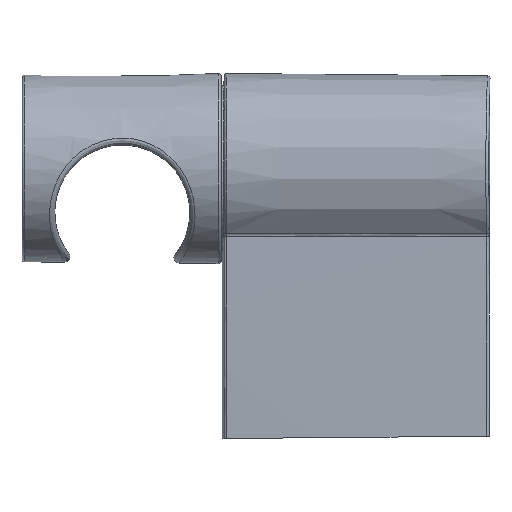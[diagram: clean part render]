
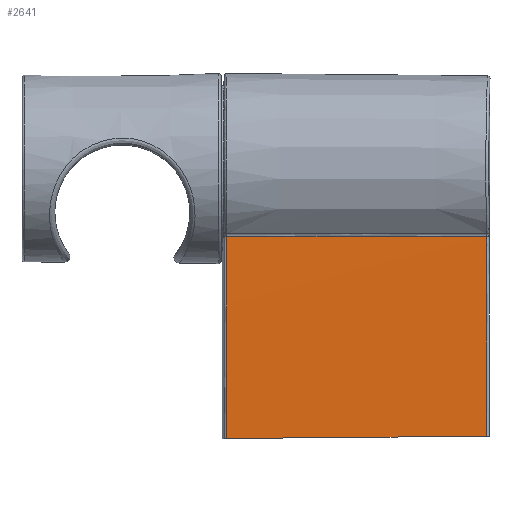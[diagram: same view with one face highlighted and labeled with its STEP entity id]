
A CAD part, front view. The second image highlights one B-rep face of the part: STEP entity #2641.
In plain terms, the highlighted spherical face has radius 2048.5 mm.
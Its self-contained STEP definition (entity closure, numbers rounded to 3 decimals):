
#3 = AXIS2_PLACEMENT_3D ( 'NONE', #2505, #2504, #2496 ) ;
#41 = B_SPLINE_CURVE_WITH_KNOTS ( 'NONE', 3,
 ( #827, #810, #809, #804 ),
 .UNSPECIFIED., .F., .F.,
 ( 4, 4 ),
 ( 0.67, 0.707 ),
 .UNSPECIFIED. ) ;
#154 = CARTESIAN_POINT ( 'NONE',  ( 24.681, -12.22, 38.113 ) ) ;
#215 = AXIS2_PLACEMENT_3D ( 'NONE', #2323, #2322, #2314 ) ;
#234 = DIRECTION ( 'NONE',  ( 0., 0., 1. ) ) ;
#732 = B_SPLINE_CURVE_WITH_KNOTS ( 'NONE', 3,
 ( #2375, #2407, #2370, #2369, #2364, #2349 ),
 .UNSPECIFIED., .F., .F.,
 ( 4, 2, 4 ),
 ( 0.008, 0.032, 0.057 ),
 .UNSPECIFIED. ) ;
#804 = CARTESIAN_POINT ( 'NONE',  ( 24.681, -12.22, 38.113 ) ) ;
#809 = CARTESIAN_POINT ( 'NONE',  ( 24.681, -12.214, 25.552 ) ) ;
#810 = CARTESIAN_POINT ( 'NONE',  ( 24.684, -12.092, 12.992 ) ) ;
#827 = CARTESIAN_POINT ( 'NONE',  ( 24.689, -11.855, 0.434 ) ) ;
#845 = EDGE_CURVE ( 'NONE', #2690, #2888, #3462, .T. ) ;
#866 = EDGE_CURVE ( 'NONE', #2049, #2340, #2087, .T. ) ;
#1135 = EDGE_CURVE ( 'NONE', #2888, #2133, #732, .T. ) ;
#1215 = EDGE_CURVE ( 'NONE', #2133, #2049, #2096, .T. ) ;
#1254 = CARTESIAN_POINT ( 'NONE',  ( 24.689, -11.855, 0.434 ) ) ;
#1345 = CARTESIAN_POINT ( 'NONE',  ( -24.428, -12.823, 38.116 ) ) ;
#1370 = CARTESIAN_POINT ( 'NONE',  ( -24.428, -12.45, 0.005 ) ) ;
#1778 = SPHERICAL_SURFACE ( 'NONE', #3240, 2048.5 ) ;
#1786 = FACE_OUTER_BOUND ( 'NONE', #2255, .T. ) ;
#2049 = VERTEX_POINT ( 'NONE', #1370 ) ;
#2087 = CIRCLE ( 'NONE', #3, 2048.127 ) ;
#2096 = CIRCLE ( 'NONE', #215, 2048.5 ) ;
#2133 = VERTEX_POINT ( 'NONE', #1345 ) ;
#2255 = EDGE_LOOP ( 'NONE', ( #3753, #2517, #3171, #2280, #3817 ) ) ;
#2280 = ORIENTED_EDGE ( 'NONE', *, *, #845, .T. ) ;
#2314 = DIRECTION ( 'NONE',  ( 0., 0., 1. ) ) ;
#2322 = DIRECTION ( 'NONE',  ( 1., 0., 0. ) ) ;
#2323 = CARTESIAN_POINT ( 'NONE',  ( -24.428, 2035.677, 39.091 ) ) ;
#2340 = VERTEX_POINT ( 'NONE', #1254 ) ;
#2349 = CARTESIAN_POINT ( 'NONE',  ( -24.428, -12.823, 38.116 ) ) ;
#2364 = CARTESIAN_POINT ( 'NONE',  ( -16.247, -12.82, 38.218 ) ) ;
#2369 = CARTESIAN_POINT ( 'NONE',  ( -8.066, -12.769, 38.268 ) ) ;
#2370 = CARTESIAN_POINT ( 'NONE',  ( 8.294, -12.568, 38.265 ) ) ;
#2375 = CARTESIAN_POINT ( 'NONE',  ( 24.652, -12.221, 38.113 ) ) ;
#2407 = CARTESIAN_POINT ( 'NONE',  ( 16.474, -12.419, 38.211 ) ) ;
#2409 = DIRECTION ( 'NONE',  ( -1., 0., 0. ) ) ;
#2496 = DIRECTION ( 'NONE',  ( -1., 0., -0.009 ) ) ;
#2504 = DIRECTION ( 'NONE',  ( -0.009, 0., 1. ) ) ;
#2505 = CARTESIAN_POINT ( 'NONE',  ( -24.659, 2035.677, 0.003 ) ) ;
#2517 = ORIENTED_EDGE ( 'NONE', *, *, #866, .T. ) ;
#2521 = CARTESIAN_POINT ( 'NONE',  ( 24.652, -12.221, 38.113 ) ) ;
#2563 = CARTESIAN_POINT ( 'NONE',  ( 24.662, -12.221, 38.113 ) ) ;
#2570 = EDGE_CURVE ( 'NONE', #2340, #2690, #41, .T. ) ;
#2641 = ADVANCED_FACE ( 'NONE', ( #1786 ), #1778, .T. ) ;
#2672 = CARTESIAN_POINT ( 'NONE',  ( 24.652, -12.221, 38.113 ) ) ;
#2690 = VERTEX_POINT ( 'NONE', #154 ) ;
#2888 = VERTEX_POINT ( 'NONE', #2672 ) ;
#3171 = ORIENTED_EDGE ( 'NONE', *, *, #2570, .T. ) ;
#3240 = AXIS2_PLACEMENT_3D ( 'NONE', #3783, #234, #2409 ) ;
#3391 = CARTESIAN_POINT ( 'NONE',  ( 24.681, -12.22, 38.113 ) ) ;
#3403 = CARTESIAN_POINT ( 'NONE',  ( 24.671, -12.22, 38.113 ) ) ;
#3462 = B_SPLINE_CURVE_WITH_KNOTS ( 'NONE', 3,
 ( #3391, #3403, #2563, #2521 ),
 .UNSPECIFIED., .F., .F.,
 ( 4, 4 ),
 ( 0.005, 0.005 ),
 .UNSPECIFIED. ) ;
#3753 = ORIENTED_EDGE ( 'NONE', *, *, #1215, .T. ) ;
#3783 = CARTESIAN_POINT ( 'NONE',  ( -25., 2035.677, 39.091 ) ) ;
#3817 = ORIENTED_EDGE ( 'NONE', *, *, #1135, .T. ) ;
